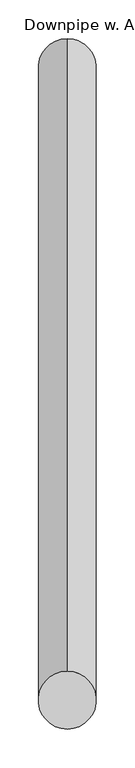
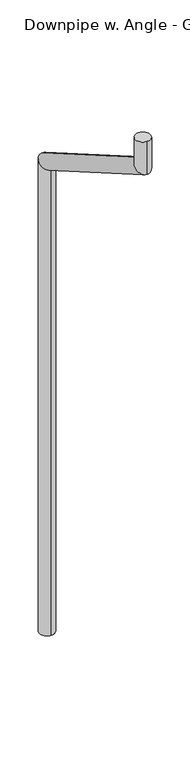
"""IFC4 building model written with IfcOpenShell, lengths in millimetres: proxy geometry, Downpipe w. Angle - Generic - Wall Hosted : 75 mm pipe."""

import ifcopenshell
import ifcopenshell.guid

model = None  # the IFC model being written
_history = None  # IfcOwnerHistory: only IFC2X3 demands one
_inside = {}  # id of a spatial element -> (the spatial element, [elements in it])
_under = {}  # id of a project, library or spatial element -> (it, [spatial elements below it])
_declared = {}  # id of a project -> (the project, [libraries it declares])
_typed = {}  # id of a type object -> (the type object, [elements of that type])
_made_of = {}  # id of a material, layer set ... -> (it, [elements and type objects made of it])


def new_model(schema):
    """Start an empty IFC model of exactly this schema.

    Asked for "IFC4X3", IfcOpenShell would pick the latest addendum, in which some entities
    have other attributes; the version numbers below select the first issue.
    IFC2X3 requires an IfcOwnerHistory on every rooted entity: one is made here for all.
    """
    global model, _history
    if schema == "IFC4X3":
        model = ifcopenshell.file(schema_version=(4, 3, 0, 0))
    else:
        model = ifcopenshell.file(schema=schema)
    _inside.clear()
    _under.clear()
    _declared.clear()
    _typed.clear()
    _made_of.clear()
    _history = None
    if model.schema == "IFC2X3":
        org = make("IfcOrganization", Name="unknown")
        user = make(
            "IfcPersonAndOrganization",
            ThePerson=make("IfcPerson", FamilyName="unknown"),
            TheOrganization=org,
        )
        app = make(
            "IfcApplication",
            ApplicationDeveloper=org,
            Version="unknown",
            ApplicationFullName="unknown",
            ApplicationIdentifier="unknown",
        )
        _history = make(
            "IfcOwnerHistory",
            OwningUser=user,
            OwningApplication=app,
            ChangeAction="ADDED",
            CreationDate=0,
        )
    return model


def make(cls, **values):
    """One entity of the class cls with the attributes given. An attribute that is None is left unset."""
    return model.create_entity(
        cls, **{name: value for name, value in values.items() if value is not None}
    )


def rooted(cls, **values):
    """An entity with a GlobalId (a new one), such as an element, a storey or a relation."""
    return make(cls, GlobalId=ifcopenshell.guid.new(), OwnerHistory=_history, **values)


def si_unit(unit_type, name, prefix=None):
    """IfcSIUnit, for example si_unit("LENGTHUNIT", "METRE", prefix="MILLI")."""
    return make("IfcSIUnit", UnitType=unit_type, Prefix=prefix, Name=name)


def assignment(units):
    """IfcUnitAssignment: the units of a project."""
    return None if units is None else make("IfcUnitAssignment", Units=units)


def point(xyz):
    """IfcCartesianPoint."""
    return None if xyz is None else make("IfcCartesianPoint", Coordinates=xyz)


def direction(xyz):
    """IfcDirection."""
    return None if xyz is None else make("IfcDirection", DirectionRatios=xyz)


def frame(location, z_axis=None, x_axis=None):
    """IfcAxis2Placement3D, a coordinate frame: its origin and axes. An axis left out is left unset."""
    return make(
        "IfcAxis2Placement3D",
        Location=point(location),
        Axis=direction(z_axis),
        RefDirection=direction(x_axis),
    )


def origin():
    """The frame at (0, 0, 0) with its axes left unset."""
    return frame((0.0, 0.0, 0.0))


def place(relative_to, where):
    """IfcLocalPlacement: puts the frame where relative to a parent placement (None: the world)."""
    return make(
        "IfcLocalPlacement", PlacementRelTo=relative_to, RelativePlacement=where
    )


def context(
    kind, dimensions, precision=None, world=None, true_north=None, identifier=None
):
    """IfcGeometricRepresentationContext, for example the 3D "Model" context."""
    return make(
        "IfcGeometricRepresentationContext",
        ContextIdentifier=identifier,
        ContextType=kind,
        CoordinateSpaceDimension=dimensions,
        Precision=precision,
        WorldCoordinateSystem=world,
        TrueNorth=true_north,
    )


def project(units=None, contexts=None):
    """IfcProject with its units and contexts."""
    return rooted(
        "IfcProject",
        Name="project",
        RepresentationContexts=contexts,
        UnitsInContext=assignment(units),
    )


def spatial(cls, under=None, at=None, **own):
    """A site, building, storey or space (cls), placed at a placement, below another one or the project."""
    s = rooted(cls, ObjectPlacement=at, **own)
    if under is not None:
        _under.setdefault(under.id(), (under, []))[1].append(s)
    return s


def circle_curve(where, radius):
    """IfcCircle in the frame where."""
    return make("IfcCircle", Position=where, Radius=radius)


def ellipse_curve(where, semi_axis1, semi_axis2):
    """IfcEllipse in the frame where."""
    return make(
        "IfcEllipse", Position=where, SemiAxis1=semi_axis1, SemiAxis2=semi_axis2
    )


def shape(context_of_items, identifier, shape_type, items):
    """IfcShapeRepresentation: the items that make up one representation, for example the "Body"."""
    return make(
        "IfcShapeRepresentation",
        ContextOfItems=context_of_items,
        RepresentationIdentifier=identifier,
        RepresentationType=shape_type,
        Items=items,
    )


def source(mapping_origin, context_of_items, identifier, shape_type, items):
    """IfcRepresentationMap: a shape defined once, which mapped items show again and again."""
    return make(
        "IfcRepresentationMap",
        MappingOrigin=mapping_origin,
        MappedRepresentation=shape(context_of_items, identifier, shape_type, items),
    )


def transform(
    local_origin,
    x_axis=None,
    y_axis=None,
    z_axis=None,
    scale=None,
    scale2=None,
    scale3=None,
    uniform=True,
):
    """IfcCartesianTransformationOperator3D, or its non-uniform kind. x_axis, y_axis, z_axis: its Axis1, 2, 3."""
    if uniform:
        return make(
            "IfcCartesianTransformationOperator3D",
            Axis1=direction(x_axis),
            Axis2=direction(y_axis),
            LocalOrigin=point(local_origin),
            Scale=scale,
            Axis3=direction(z_axis),
        )
    return make(
        "IfcCartesianTransformationOperator3DnonUniform",
        Axis1=direction(x_axis),
        Axis2=direction(y_axis),
        LocalOrigin=point(local_origin),
        Scale=scale,
        Axis3=direction(z_axis),
        Scale2=scale2,
        Scale3=scale3,
    )


def mapped(mapping_source, mapping_target):
    """IfcMappedItem: shows the shape of a source again, moved by a transform."""
    return make(
        "IfcMappedItem", MappingSource=mapping_source, MappingTarget=mapping_target
    )


def made_of(thing, what):
    """Note that an element or type object is made of a material, layer set ...; save() writes the relation."""
    if what is not None:
        _made_of.setdefault(what.id(), (what, []))[1].append(thing)
    return thing


def element(
    cls,
    number,
    at=None,
    inside=None,
    cuts=None,
    type_object=None,
    material=None,
    context=None,
    identifier="Body",
    shape_type=None,
    held_by="IfcProductDefinitionShape",
    body=None,
    shapes=None,
    **own,
):
    """One element of the class cls, such as IfcWall. Its Tag is "e" and its number.

    at: its placement. inside: the storey or other place that contains it. cuts: it is an
    opening in that element (IfcRelVoidsElement). A single representation is given by context,
    identifier, shape_type and body (its items); several are given by shapes. held_by: the class
    of the entity that holds the representations. save() writes the other relations.
    """
    e = rooted(cls, Tag="e%d" % number, ObjectPlacement=at, **own)
    if body is not None:
        shapes = [shape(context, identifier, shape_type, body)]
    if shapes is not None:
        e.Representation = make(held_by, Representations=shapes)
    if inside is not None:
        _inside.setdefault(inside.id(), (inside, []))[1].append(e)
    if cuts is not None:
        rooted(
            "IfcRelVoidsElement", RelatingBuildingElement=cuts, RelatedOpeningElement=e
        )
    if type_object is not None:
        _typed.setdefault(type_object.id(), (type_object, []))[1].append(e)
    return made_of(e, material)


def aggregate(whole, parts):
    """IfcRelAggregates: a whole, such as a stair, and the parts it consists of."""
    return rooted("IfcRelAggregates", RelatingObject=whole, RelatedObjects=parts)


def save(model, path):
    """Write the relations noted so far, then the file.

    IfcRelAggregates (storeys below a building ...), IfcRelContainedInSpatialStructure (elements
    in a storey), IfcRelDefinesByType, IfcRelAssociatesMaterial and IfcRelDeclares: one each for
    every whole, place, type object, material and project.
    """
    for whole, parts in _under.values():
        aggregate(whole, parts)
    for where, things in _inside.values():
        rooted(
            "IfcRelContainedInSpatialStructure",
            RelatedElements=things,
            RelatingStructure=where,
        )
    for kind, things in _typed.values():
        rooted("IfcRelDefinesByType", RelatedObjects=things, RelatingType=kind)
    for what, things in _made_of.values():
        rooted("IfcRelAssociatesMaterial", RelatedObjects=things, RelatingMaterial=what)
    for by, libraries in _declared.values():
        rooted("IfcRelDeclares", RelatingContext=by, RelatedDefinitions=libraries)
    model.write(path)


def plane_surface(at):
    """IfcPlane: the flat surface through the origin of the frame at, square to its z axis."""
    return make("IfcPlane", Position=at)


def cylinder_surface(at, radius):
    """IfcCylindricalSurface: all points at the distance radius from the z axis of the frame at."""
    return make("IfcCylindricalSurface", Position=at, Radius=radius)


def advanced_brep(points, edges, surfaces, faces):
    """IfcAdvancedBrep: a solid bounded by faces that lie on surfaces and meet in shared edges.

    An edge is (start, end): straight between two places in points (the first is 0);
    or (start, end, curve); or (start, end, curve, False) where it runs against its curve.
    A face is (place in surfaces, loops), or (place, loops, False) where it looks against
    its surface's normal. A loop lists edges by number (the first is 1), with a minus sign
    where the edge is run from its end to its start. The first loop is the outer one.
    """
    corners = [point(p) for p in points]
    vertices = [make("IfcVertexPoint", VertexGeometry=c) for c in corners]
    made = []
    for start, end, *more in edges:
        made.append(
            make(
                "IfcEdgeCurve",
                EdgeStart=vertices[start],
                EdgeEnd=vertices[end],
                EdgeGeometry=more[0] if more else make("IfcPolyline", Points=[corners[start], corners[end]]),
                SameSense=more[1] if len(more) > 1 else True,
            )
        )
    hull = []
    for where, loops, *sense in faces:
        bounds = []
        for j, loop in enumerate(loops):
            ring = [make("IfcOrientedEdge", EdgeElement=made[abs(k) - 1], Orientation=k > 0) for k in loop]
            bounds.append(
                make(
                    "IfcFaceOuterBound" if j == 0 else "IfcFaceBound",
                    Bound=make("IfcEdgeLoop", EdgeList=ring),
                    Orientation=True,
                )
            )
        hull.append(make("IfcAdvancedFace", Bounds=bounds, FaceSurface=surfaces[where], SameSense=sense[0] if sense else True))
    return make("IfcAdvancedBrep", Outer=make("IfcClosedShell", CfsFaces=hull))


def downpipe_w_angle_generic_wall_hosted_75_mm_pipe_d87bf8e7(model_context):
    return source(origin(), model_context, "Body", "AdvancedBrep", [
        advanced_brep(
        [(125.0, -337.5, 0.0), (125.0, -262.5, 0.0), (125.0, -262.5, 2473.2234144), (125.0, -337.5, 2429.9221442), (125.0, -1082.5, 2946.6506351), (125.0, -1157.5, 2903.3493649), (125.0, -1157.5, 3075.0), (125.0, -1082.5, 3075.0)],
        [
            (0, 1, circle_curve(frame((125.0, -300.0, 0.0), z_axis=(0.0, 0.0, -1.0), x_axis=(0.0, 1.0, 0.0)), 37.5)),
            (1, 0, circle_curve(frame((125.0, -300.0, 0.0), z_axis=(0.0, 0.0, -1.0), x_axis=(0.0, 1.0, 0.0)), 37.5)),
            (1, 2),
            (2, 3, ellipse_curve(frame((125.0, -300.0, 2451.5727793), z_axis=(0.0, 0.5000000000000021, -0.8660254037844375), x_axis=(0.0, -0.8660254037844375, -0.5000000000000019)), 43.3012702, 37.5)),
            (3, 0),
            (3, 2, ellipse_curve(frame((125.0, -300.0, 2451.5727793), z_axis=(0.0, 0.5000000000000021, -0.8660254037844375), x_axis=(0.0, -0.8660254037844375, -0.5000000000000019)), 43.3012702, 37.5)),
            (2, 4),
            (4, 5, ellipse_curve(frame((125.0, -1120.0, 2925.0), z_axis=(0.0, 0.500000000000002, -0.8660254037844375), x_axis=(0.0, 0.8660254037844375, 0.500000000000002)), 43.3012702, 37.5)),
            (5, 3),
            (5, 4, ellipse_curve(frame((125.0, -1120.0, 2925.0), z_axis=(0.0, 0.500000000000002, -0.8660254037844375), x_axis=(0.0, 0.8660254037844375, 0.500000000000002)), 43.3012702, 37.5)),
            (6, 7, circle_curve(frame((125.0, -1120.0, 3075.0), z_axis=(0.0, 0.0, 1.0), x_axis=(0.0, 1.0, 0.0)), 37.5)),
            (7, 6, circle_curve(frame((125.0, -1120.0, 3075.0), z_axis=(0.0, 0.0, 1.0), x_axis=(0.0, 1.0, 0.0)), 37.5)),
            (4, 7),
            (6, 5),
        ],
        [
            plane_surface(frame((125.0, -300.0, 0.0), z_axis=(0.0, 0.0, -1.0), x_axis=(1.0, 0.0, 0.0))),
            cylinder_surface(frame((125.0, -300.0, 0.0), z_axis=(0.0, 0.0, -1.0), x_axis=(0.0, 1.0, 0.0)), 37.5),
            cylinder_surface(frame((125.0, -300.0, 2451.5727793), z_axis=(0.0, 0.8660254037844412, -0.4999999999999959), x_axis=(0.0, 0.4999999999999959, 0.8660254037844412)), 37.5),
            plane_surface(frame((125.0, -1120.0, 3075.0), z_axis=(0.0, 0.0, 1.0), x_axis=(1.0, 0.0, 0.0))),
            cylinder_surface(frame((125.0, -1120.0, 2925.0), z_axis=(0.0, 0.0, -1.0), x_axis=(0.0, 1.0, 0.0)), 37.5),
        ],
        [
            (0, [[1, 2]]),
            (1, [[3, 4, 5, -2]]),
            (1, [[-5, 6, -3, -1]]),
            (2, [[7, 8, 9, -4]]),
            (2, [[-9, 10, -7, -6]]),
            (3, [[11, 12]]),
            (4, [[13, -11, 14, -8]]),
            (4, [[-14, -12, -13, -10]]),
        ],
    ),
    ])


if __name__ == "__main__":
    model = new_model("IFC4")
    model_context = context("Model", 3, world=origin())
    ifc_project = project(units=[si_unit("LENGTHUNIT", "METRE", prefix="MILLI")], contexts=[model_context])
    site = spatial("IfcSite", under=ifc_project)
    building = spatial("IfcBuilding", under=site)
    placement = place(None, origin())
    downpipe_w_angle_generic_wall_hosted_75_mm_pipe_shape = downpipe_w_angle_generic_wall_hosted_75_mm_pipe_d87bf8e7(model_context)
    element("IfcBuildingElementProxy", 1, Name="Downpipe w. Angle - Generic - Wall Hosted : 75 mm pipe", ObjectType="Downpipe w. Angle - Generic - Wall Hosted : 75 mm pipe", at=placement, inside=building, context=model_context, shape_type="MappedRepresentation", body=[
        mapped(downpipe_w_angle_generic_wall_hosted_75_mm_pipe_shape, transform((0.0, 0.0, 0.0), x_axis=(1.0, 0.0, 0.0), y_axis=(0.0, 1.0, 0.0), z_axis=(0.0, 0.0, 1.0))),
    ])
    save(model, "model.ifc")
